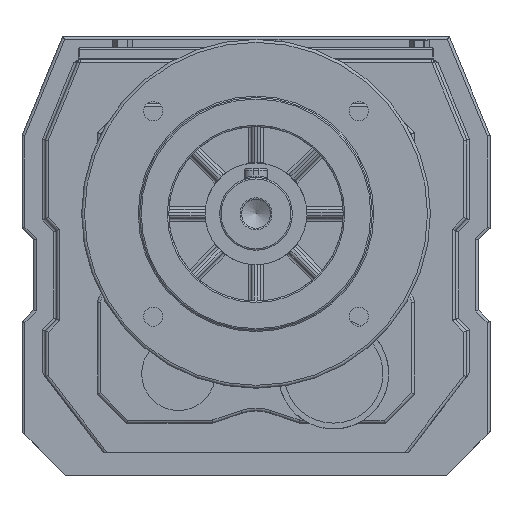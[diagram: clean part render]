
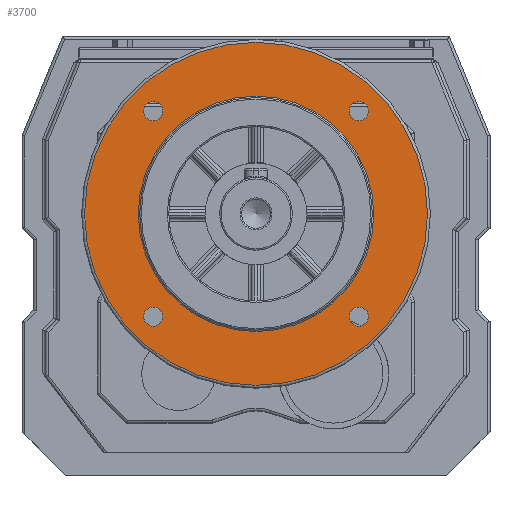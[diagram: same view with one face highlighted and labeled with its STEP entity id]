
A CAD part, front view. The second image highlights one B-rep face of the part: STEP entity #3700.
In plain terms, the highlighted planar face has unit normal (0, -1, 0).
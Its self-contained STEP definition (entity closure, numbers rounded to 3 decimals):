
#105=CARTESIAN_POINT('',(-32.055,-90.0,54.645));
#106=VERTEX_POINT('',#105);
#107=CARTESIAN_POINT('',(-35.355,-90.0,54.645));
#108=DIRECTION('',(0.0,1.0,0.0));
#109=DIRECTION('',(1.0,0.0,0.0));
#110=AXIS2_PLACEMENT_3D('',#107,#108,#109);
#111=CIRCLE('',#110,3.3);
#112=EDGE_CURVE('',#106,#106,#111,.T.);
#154=CARTESIAN_POINT('',(-32.055,-90.0,125.355));
#155=VERTEX_POINT('',#154);
#156=CARTESIAN_POINT('',(-35.355,-90.0,125.355));
#157=DIRECTION('',(0.0,1.0,0.0));
#158=DIRECTION('',(1.0,0.0,0.0));
#159=AXIS2_PLACEMENT_3D('',#156,#157,#158);
#160=CIRCLE('',#159,3.3);
#161=EDGE_CURVE('',#155,#155,#160,.T.);
#203=CARTESIAN_POINT('',(38.655,-90.0,125.355));
#204=VERTEX_POINT('',#203);
#205=CARTESIAN_POINT('',(35.355,-90.0,125.355));
#206=DIRECTION('',(0.0,1.0,0.0));
#207=DIRECTION('',(1.0,0.0,0.0));
#208=AXIS2_PLACEMENT_3D('',#205,#206,#207);
#209=CIRCLE('',#208,3.3);
#210=EDGE_CURVE('',#204,#204,#209,.T.);
#252=CARTESIAN_POINT('',(38.655,-90.0,54.645));
#253=VERTEX_POINT('',#252);
#254=CARTESIAN_POINT('',(35.355,-90.0,54.645));
#255=DIRECTION('',(0.0,1.0,0.0));
#256=DIRECTION('',(1.0,0.0,0.0));
#257=AXIS2_PLACEMENT_3D('',#254,#255,#256);
#258=CIRCLE('',#257,3.3);
#259=EDGE_CURVE('',#253,#253,#258,.T.);
#3654=CARTESIAN_POINT('',(0.0,-90.0,149.0));
#3655=VERTEX_POINT('',#3654);
#3656=CARTESIAN_POINT('',(0.0,-90.0,90.0));
#3657=DIRECTION('',(0.0,1.0,0.0));
#3658=DIRECTION('',(0.0,0.0,-1.0));
#3659=AXIS2_PLACEMENT_3D('',#3656,#3657,#3658);
#3660=CIRCLE('',#3659,59.0);
#3661=EDGE_CURVE('',#3655,#3655,#3660,.T.);
#3669=CARTESIAN_POINT('',(0.0,-90.0,140.0));
#3670=DIRECTION('',(0.0,-1.0,0.0));
#3671=DIRECTION('',(0.0,0.0,-1.0));
#3672=AXIS2_PLACEMENT_3D('',#3669,#3670,#3671);
#3673=PLANE('',#3672);
#3674=ORIENTED_EDGE('',*,*,#3661,.F.);
#3675=EDGE_LOOP('',(#3674));
#3676=FACE_OUTER_BOUND('',#3675,.T.);
#3677=ORIENTED_EDGE('',*,*,#112,.T.);
#3678=EDGE_LOOP('',(#3677));
#3679=FACE_BOUND('',#3678,.T.);
#3680=ORIENTED_EDGE('',*,*,#161,.T.);
#3681=EDGE_LOOP('',(#3680));
#3682=FACE_BOUND('',#3681,.T.);
#3683=ORIENTED_EDGE('',*,*,#210,.T.);
#3684=EDGE_LOOP('',(#3683));
#3685=FACE_BOUND('',#3684,.T.);
#3686=ORIENTED_EDGE('',*,*,#259,.T.);
#3687=EDGE_LOOP('',(#3686));
#3688=FACE_BOUND('',#3687,.T.);
#3689=CARTESIAN_POINT('',(0.,-90.0,130.5));
#3690=VERTEX_POINT('',#3689);
#3691=CARTESIAN_POINT('',(0.0,-90.0,90.0));
#3692=DIRECTION('',(0.0,-1.0,0.0));
#3693=DIRECTION('',(0.0,0.0,-1.0));
#3694=AXIS2_PLACEMENT_3D('',#3691,#3692,#3693);
#3695=CIRCLE('',#3694,40.5);
#3696=EDGE_CURVE('',#3690,#3690,#3695,.T.);
#3697=ORIENTED_EDGE('',*,*,#3696,.F.);
#3698=EDGE_LOOP('',(#3697));
#3699=FACE_BOUND('',#3698,.T.);
#3700=ADVANCED_FACE('',(#3676,#3679,#3682,#3685,#3688,#3699),#3673,.T.);
